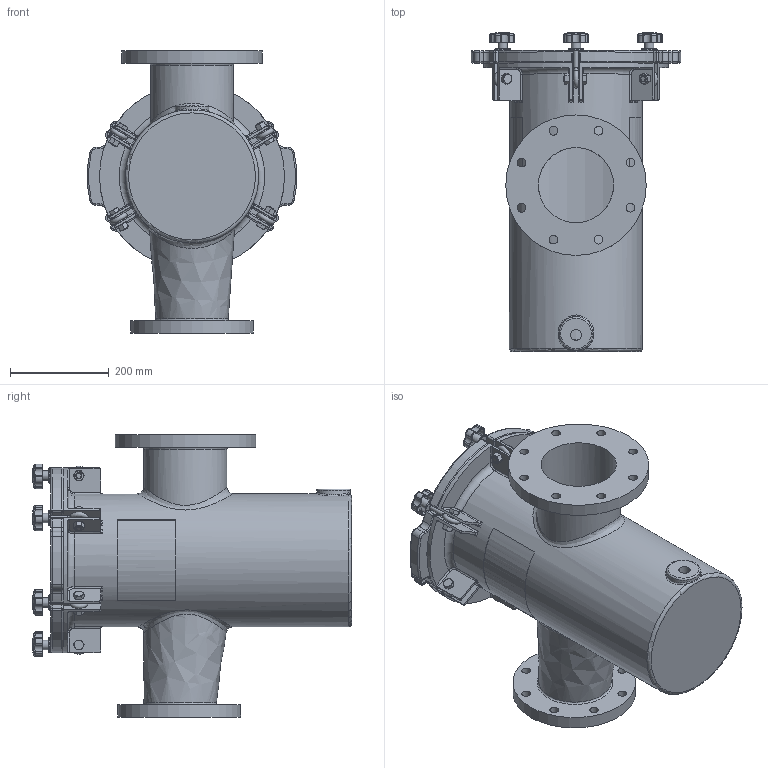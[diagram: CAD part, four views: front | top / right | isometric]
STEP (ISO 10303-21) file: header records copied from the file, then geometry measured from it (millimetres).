
FILE_DESCRIPTION(/* description */ ('150MM X 125MM FIBERGLASS STRAINER BODY'),/* implementation_level */ '2;1');
FILE_NAME(/* name */ 'E:\New folder (7)\Ready for delivery - Do not Disturb -Updated with metric Flange\Workspace\FG Reducing Strainer\Guardian FG Reducing H&L Strainer (Metric)\STRAINER H&L 150MM X 125MM.step',/* time_stamp */ '2016-10-19T04:14:19+06:00',/* author */ ('20076253'),/* organization */ (''),/* preprocessor_version */ 'ST-DEVELOPER v16.1',/* originating_system */ 'Autodesk Inventor 2016',/* authorisation */ '');
FILE_SCHEMA (('AUTOMOTIVE_DESIGN { 1 0 10303 214 3 1 1 }'));
Length unit declared in the file: inch
Products named in the file (18): NBFGBODY06X05MM; 150NBCVR48R1; 150NBGSK48R1; Perforated Basket 10in; Bride (Ring) 10in; Baffle 10in; Handle 10in; Bottom Strainer 10in; NBBSK08T316; Nut- 1_2  UNC; Bolt-1_2 x 1 1_2  UNC; EyeBolt; Washer; Knob M10; Securing Assembly For FG without Brace; Label for 10.625 inch (Right); Label for 10.625 inch (Left); STRAINER H&L 150MM X 125MM
Assembly tree (22 placements, depth 3):
  STRAINER H&L 150MM X 125MM
    NBFGBODY06X05MM
    150NBCVR48R1
    150NBGSK48R1
    NBBSK08T316
      Perforated Basket 10in
      Bride (Ring) 10in
      Baffle 10in
      Handle 10in
      Bottom Strainer 10in
    Securing Assembly For FG without Brace  x6
      Nut- 1_2  UNC
      Bolt-1_2 x 1 1_2  UNC
      EyeBolt
      Washer
      Knob M10
    Label for 10.625 inch (Right)
    Label for 10.625 inch (Left)
Bounding box: 424.18 x 646.2 x 571.5 mm (x, y, z)
Volume: 11515439.8 mm3; surface area: 2797051.1 mm2
Topology: 40 solids, 40 shells, 1269 faces, 2912 edges, 1722 vertices
Faces by surface type: cylinder 463, plane 330, cone 138, torus 124, bspline 112, sphere 102
Full cylindrical faces by diameter (mm): 3.175 x10, 6.35 x2, 8.382 x6, 9.525 x12, 10.592 x6, 12.7 x6, 15.875 x12, 17.78 x16, 19 x12, 19.05 x6, 22.809 x1, 31.75 x6, 68.263 x1, 152.4 x1, 168.275 x1, 187.325 x2, 190.5 x1, 193.04 x1, 248.92 x1, 254 x2, 266.7 x1, 269.875 x1, 276.225 x1, 284.48 x1, 311.15 x1, 317.5 x1
Entity records: 26022 total; most frequent: CARTESIAN_POINT 10080, DIRECTION 3292, ORIENTED_EDGE 2996, EDGE_CURVE 1498, AXIS2_PLACEMENT_3D 1390, VERTEX_POINT 950, EDGE_LOOP 856, CIRCLE 701
